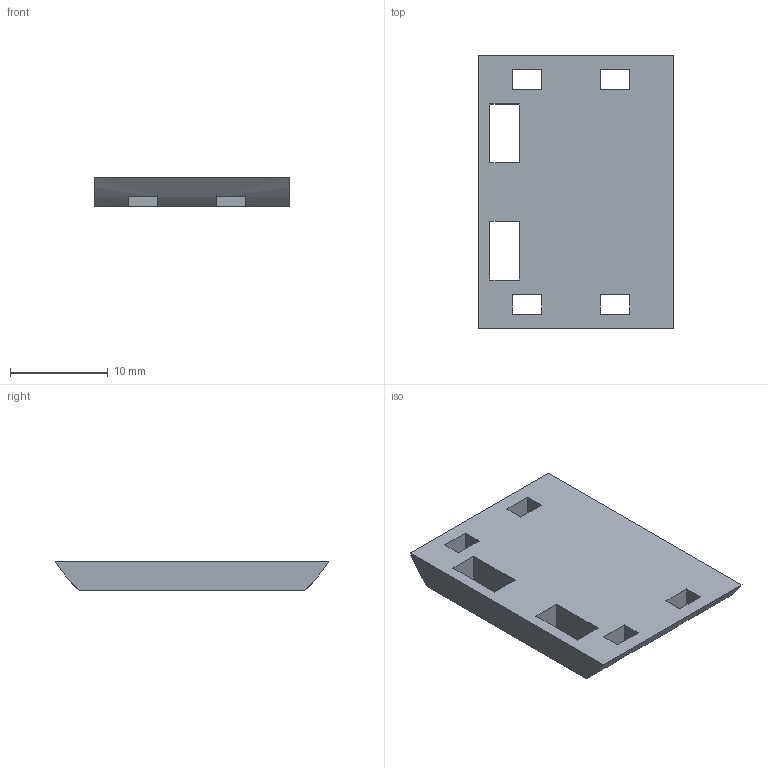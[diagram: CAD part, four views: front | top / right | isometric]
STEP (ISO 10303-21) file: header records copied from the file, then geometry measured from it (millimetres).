
FILE_DESCRIPTION(('SkyG Speed 90B - revision C6B-24 - 2026-10-17','N0M-vtx-shelf'),'2;1');
FILE_NAME('N0M-vtx-shelf_C6B-24','2026-10-17T13:26:39',('Author'),( 'Open CASCADE'),'Open CASCADE STEP processor 7.9','Open CASCADE 7.9' ,'Unknown');
FILE_SCHEMA(('AUTOMOTIVE_DESIGN { 1 0 10303 214 1 1 1 1 }'));
Length unit declared in the file: millimetre
Products named in the file (1): N0M-vtx-shelf C6B-24
Bounding box: 20 x 28.02 x 3 mm (x, y, z)
Volume: 1370.4 mm3; surface area: 1419.3 mm2
Topology: 1 solids, 1 shells, 30 faces, 96 edges, 64 vertices
Faces by surface type: plane 28, cylinder 2
Entity records: 2222 total; most frequent: CARTESIAN_POINT 495, DIRECTION 250, ORIENTED_EDGE 192, PCURVE 192, DEFINITIONAL_REPRESENTATION 192, LINE 152, VECTOR 152, B_SPLINE_CURVE_WITH_KNOTS 112
